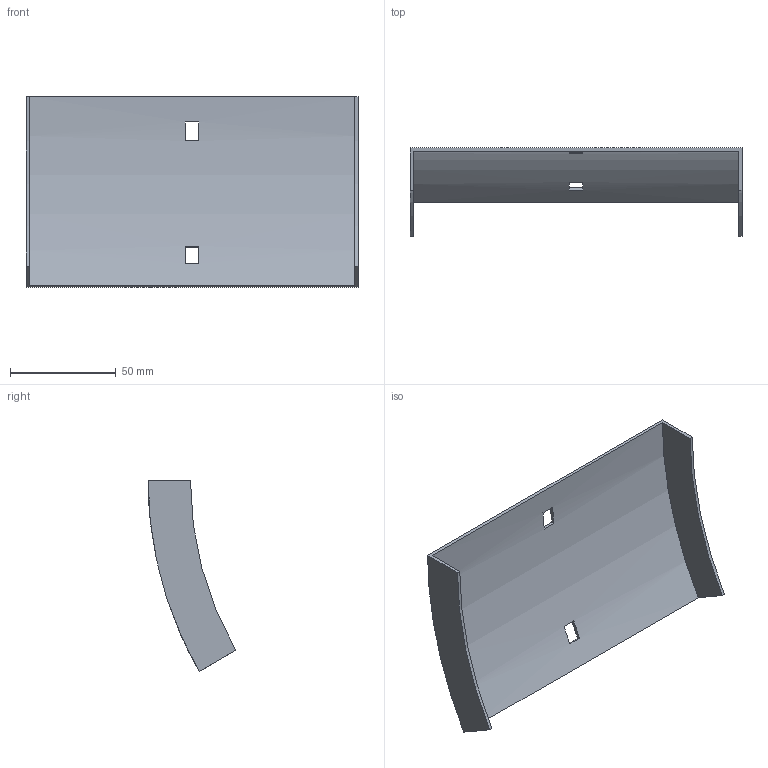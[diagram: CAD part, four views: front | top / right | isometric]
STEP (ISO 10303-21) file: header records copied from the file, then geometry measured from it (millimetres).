
FILE_DESCRIPTION (( 'STEP AP214' ), '1' );
FILE_NAME ('35N1C150.step', '2025-02-21T09:12:57', ( '' ), ( '' ), 'SwSTEP 2.0', 'SolidWorks 2023', '' );
FILE_SCHEMA (( 'AUTOMOTIVE_DESIGN' ));
Length unit declared in the file: millimetre
Products named in the file (1): 35N1C150
Bounding box: 157 x 41.5 x 90.25 mm (x, y, z)
Volume: 26921.2 mm3; surface area: 36823.6 mm2
Topology: 1 solids, 1 shells, 18 faces, 48 edges, 32 vertices
Faces by surface type: plane 14, cylinder 4
Entity records: 599 total; most frequent: DIRECTION 102, CARTESIAN_POINT 99, ORIENTED_EDGE 96, EDGE_CURVE 48, AXIS2_PLACEMENT_3D 35, LINE 32, VERTEX_POINT 32, VECTOR 32
